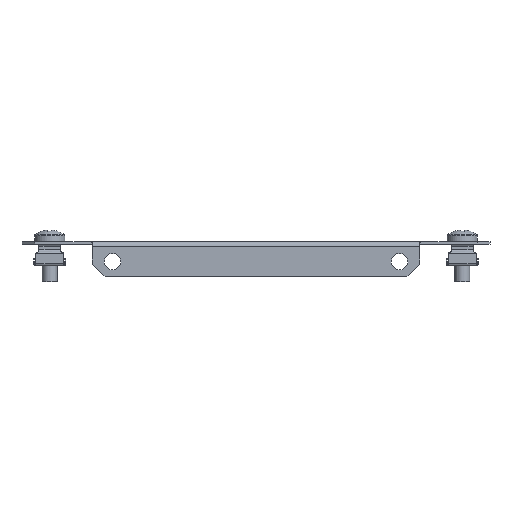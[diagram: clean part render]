
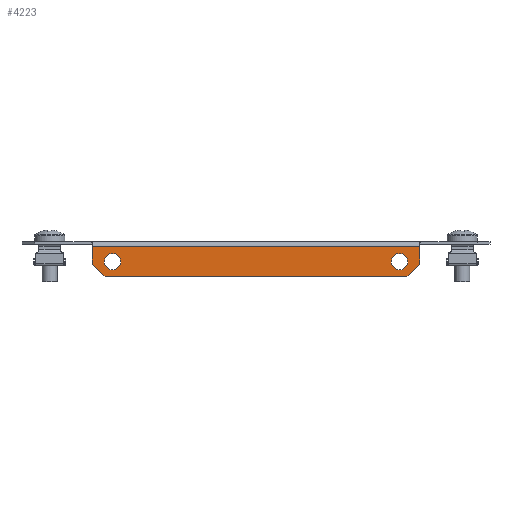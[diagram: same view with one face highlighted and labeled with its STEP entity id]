
A CAD part, front view. The second image highlights one B-rep face of the part: STEP entity #4223.
In plain terms, the highlighted planar face has unit normal (0, -1, 0).
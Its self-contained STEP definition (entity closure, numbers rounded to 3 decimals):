
#93 = CARTESIAN_POINT ( 'NONE',  ( 57., -24.5, -4.75 ) ) ;
#191 = CARTESIAN_POINT ( 'NONE',  ( -37., -24.5, -37. ) ) ;
#249 = EDGE_CURVE ( 'NONE', #664, #6431, #1986, .T. ) ;
#377 = VERTEX_POINT ( 'NONE', #396 ) ;
#396 = CARTESIAN_POINT ( 'NONE',  ( -65., -24.5, -9. ) ) ;
#420 = CARTESIAN_POINT ( 'NONE',  ( 65., -24.5, -2. ) ) ;
#474 = EDGE_CURVE ( 'NONE', #4958, #4958, #3574, .T. ) ;
#614 = VERTEX_POINT ( 'NONE', #5353 ) ;
#623 = VERTEX_POINT ( 'NONE', #1550 ) ;
#664 = VERTEX_POINT ( 'NONE', #2604 ) ;
#716 = LINE ( 'NONE', #191, #2220 ) ;
#745 = DIRECTION ( 'NONE',  ( 0.707, 0., 0.707 ) ) ;
#1143 = CARTESIAN_POINT ( 'NONE',  ( -57., -24.5, -4.75 ) ) ;
#1175 = DIRECTION ( 'NONE',  ( 0., 0., 1. ) ) ;
#1355 = CIRCLE ( 'NONE', #3167, 3.25 ) ;
#1405 = CARTESIAN_POINT ( 'NONE',  ( 0., -24.5, 0. ) ) ;
#1550 = CARTESIAN_POINT ( 'NONE',  ( 60., -24.5, -14. ) ) ;
#1597 = DIRECTION ( 'NONE',  ( 0., 0., -1. ) ) ;
#1603 = ORIENTED_EDGE ( 'NONE', *, *, #3109, .T. ) ;
#1606 = VECTOR ( 'NONE', #745, 1000. ) ;
#1663 = EDGE_LOOP ( 'NONE', ( #2298 ) ) ;
#1680 = AXIS2_PLACEMENT_3D ( 'NONE', #1405, #3566, #2964 ) ;
#1949 = EDGE_CURVE ( 'NONE', #377, #614, #716, .T. ) ;
#1986 = LINE ( 'NONE', #2372, #5092 ) ;
#2069 = EDGE_CURVE ( 'NONE', #2546, #377, #3512, .T. ) ;
#2073 = ORIENTED_EDGE ( 'NONE', *, *, #4587, .T. ) ;
#2076 = CARTESIAN_POINT ( 'NONE',  ( 37., -24.5, -37. ) ) ;
#2137 = CARTESIAN_POINT ( 'NONE',  ( 0., -24.5, -2. ) ) ;
#2220 = VECTOR ( 'NONE', #3983, 1000. ) ;
#2298 = ORIENTED_EDGE ( 'NONE', *, *, #4985, .T. ) ;
#2372 = CARTESIAN_POINT ( 'NONE',  ( 65., -24.5, 0. ) ) ;
#2413 = ORIENTED_EDGE ( 'NONE', *, *, #6898, .T. ) ;
#2467 = ORIENTED_EDGE ( 'NONE', *, *, #474, .F. ) ;
#2531 = EDGE_LOOP ( 'NONE', ( #2073, #1603, #3829, #2413, #4298, #4998 ) ) ;
#2546 = VERTEX_POINT ( 'NONE', #6013 ) ;
#2599 = DIRECTION ( 'NONE',  ( -1., 0., 0. ) ) ;
#2600 = DIRECTION ( 'NONE',  ( 0., -1., 0. ) ) ;
#2604 = CARTESIAN_POINT ( 'NONE',  ( 65., -24.5, -9. ) ) ;
#2614 = CARTESIAN_POINT ( 'NONE',  ( -65., -24.5, 0. ) ) ;
#2738 = VERTEX_POINT ( 'NONE', #1143 ) ;
#2885 = CARTESIAN_POINT ( 'NONE',  ( 0., -24.5, -14. ) ) ;
#2964 = DIRECTION ( 'NONE',  ( 0., 0., 1. ) ) ;
#3109 = EDGE_CURVE ( 'NONE', #623, #664, #6957, .T. ) ;
#3167 = AXIS2_PLACEMENT_3D ( 'NONE', #6559, #3301, #1175 ) ;
#3301 = DIRECTION ( 'NONE',  ( 0., 1., 0. ) ) ;
#3309 = DIRECTION ( 'NONE',  ( 1., 0., 0. ) ) ;
#3512 = LINE ( 'NONE', #2614, #4011 ) ;
#3525 = VECTOR ( 'NONE', #2599, 1000. ) ;
#3566 = DIRECTION ( 'NONE',  ( 0., -1., 0. ) ) ;
#3574 = CIRCLE ( 'NONE', #6998, 3.25 ) ;
#3829 = ORIENTED_EDGE ( 'NONE', *, *, #249, .T. ) ;
#3965 = VECTOR ( 'NONE', #3309, 1000. ) ;
#3983 = DIRECTION ( 'NONE',  ( 0.707, 0., -0.707 ) ) ;
#4011 = VECTOR ( 'NONE', #1597, 1000. ) ;
#4076 = FACE_BOUND ( 'NONE', #1663, .T. ) ;
#4108 = FACE_BOUND ( 'NONE', #5675, .T. ) ;
#4223 = ADVANCED_FACE ( 'NONE', ( #4108, #4076, #5823 ), #6284, .T. ) ;
#4298 = ORIENTED_EDGE ( 'NONE', *, *, #2069, .T. ) ;
#4587 = EDGE_CURVE ( 'NONE', #614, #623, #4965, .T. ) ;
#4958 = VERTEX_POINT ( 'NONE', #93 ) ;
#4965 = LINE ( 'NONE', #2885, #3965 ) ;
#4985 = EDGE_CURVE ( 'NONE', #2738, #2738, #1355, .T. ) ;
#4998 = ORIENTED_EDGE ( 'NONE', *, *, #1949, .T. ) ;
#5092 = VECTOR ( 'NONE', #5126, 1000. ) ;
#5126 = DIRECTION ( 'NONE',  ( 0., 0., 1. ) ) ;
#5353 = CARTESIAN_POINT ( 'NONE',  ( -60., -24.5, -14. ) ) ;
#5675 = EDGE_LOOP ( 'NONE', ( #2467 ) ) ;
#5823 = FACE_OUTER_BOUND ( 'NONE', #2531, .T. ) ;
#5888 = DIRECTION ( 'NONE',  ( 0., 0., 1. ) ) ;
#6013 = CARTESIAN_POINT ( 'NONE',  ( -65., -24.5, -2. ) ) ;
#6284 = PLANE ( 'NONE',  #1680 ) ;
#6388 = CARTESIAN_POINT ( 'NONE',  ( 57., -24.5, -8. ) ) ;
#6431 = VERTEX_POINT ( 'NONE', #420 ) ;
#6559 = CARTESIAN_POINT ( 'NONE',  ( -57., -24.5, -8. ) ) ;
#6898 = EDGE_CURVE ( 'NONE', #6431, #2546, #6950, .T. ) ;
#6950 = LINE ( 'NONE', #2137, #3525 ) ;
#6957 = LINE ( 'NONE', #2076, #1606 ) ;
#6998 = AXIS2_PLACEMENT_3D ( 'NONE', #6388, #2600, #5888 ) ;
